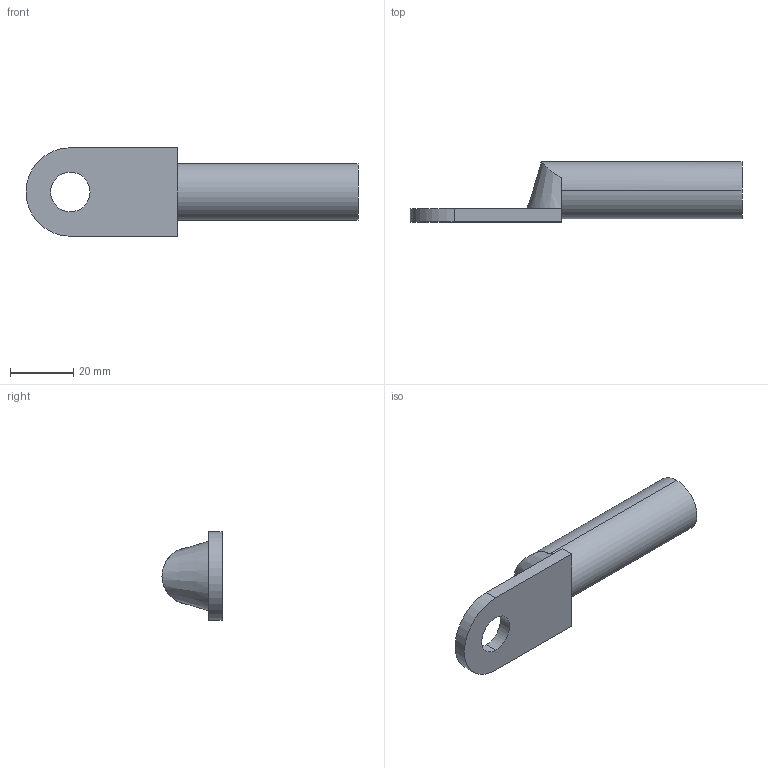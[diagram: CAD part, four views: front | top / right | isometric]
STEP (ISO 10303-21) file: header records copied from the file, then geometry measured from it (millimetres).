
FILE_DESCRIPTION (( 'STEP AP214' ), '1' );
FILE_NAME ('DT-95-12.STEP', '2020-04-24T12:44:03', ( '' ), ( '' ), 'SwSTEP 2.0', 'SolidWorks 2018', '' );
FILE_SCHEMA (( 'AUTOMOTIVE_DESIGN' ));
Length unit declared in the file: millimetre
Products named in the file (1): DT-95-12
Bounding box: 105 x 19 x 28 mm (x, y, z)
Volume: 12647.6 mm3; surface area: 9231.9 mm2
Topology: 1 solids, 1 shells, 17 faces, 40 edges, 26 vertices
Faces by surface type: plane 9, cylinder 7, cone 1
Entity records: 587 total; most frequent: CARTESIAN_POINT 139, DIRECTION 93, ORIENTED_EDGE 80, EDGE_CURVE 40, AXIS2_PLACEMENT_3D 36, VERTEX_POINT 26, LINE 21, VECTOR 21
